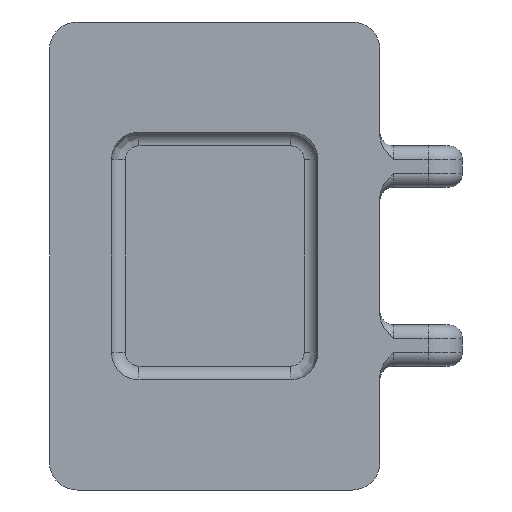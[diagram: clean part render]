
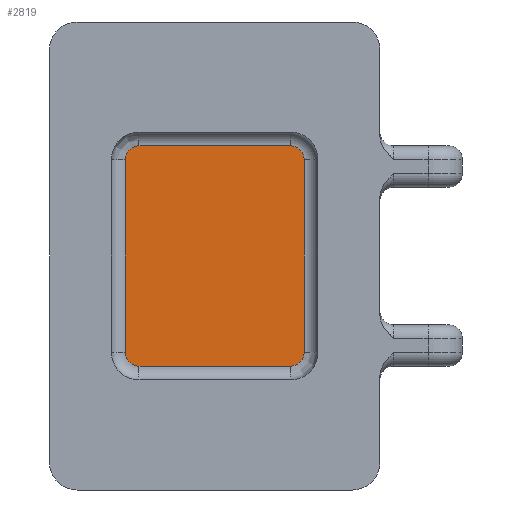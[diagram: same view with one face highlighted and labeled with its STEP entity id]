
A CAD part, front view. The second image highlights one B-rep face of the part: STEP entity #2819.
In plain terms, the highlighted planar face has unit normal (0, -1, 0).
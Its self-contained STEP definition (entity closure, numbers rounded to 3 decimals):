
#1003=CARTESIAN_POINT('',(-5.5,1.,-7.));
#1004=DIRECTION('',(0.,1.,0.));
#1005=DIRECTION('',(0.,0.,-1.));
#1006=AXIS2_PLACEMENT_3D('',#1003,#1004,#1005);
#1008=DIRECTION('',(0.,0.,1.));
#1009=VECTOR('',#1008,14.);
#1010=CARTESIAN_POINT('',(-6.5,1.,-7.));
#1011=LINE('',#1010,#1009);
#1012=CARTESIAN_POINT('',(-5.5,1.,7.));
#1013=DIRECTION('',(0.,1.,0.));
#1014=DIRECTION('',(-1.,0.,0.));
#1015=AXIS2_PLACEMENT_3D('',#1012,#1013,#1014);
#1017=DIRECTION('',(1.,0.,0.));
#1018=VECTOR('',#1017,11.);
#1019=CARTESIAN_POINT('',(-5.5,1.,8.));
#1020=LINE('',#1019,#1018);
#1021=CARTESIAN_POINT('',(5.5,1.,7.));
#1022=DIRECTION('',(0.,1.,0.));
#1023=DIRECTION('',(0.,0.,1.));
#1024=AXIS2_PLACEMENT_3D('',#1021,#1022,#1023);
#1026=DIRECTION('',(0.,0.,-1.));
#1027=VECTOR('',#1026,14.);
#1028=CARTESIAN_POINT('',(6.5,1.,7.));
#1029=LINE('',#1028,#1027);
#1030=CARTESIAN_POINT('',(5.5,1.,-7.));
#1031=DIRECTION('',(0.,1.,0.));
#1032=DIRECTION('',(1.,0.,0.));
#1033=AXIS2_PLACEMENT_3D('',#1030,#1031,#1032);
#1035=DIRECTION('',(-1.,0.,0.));
#1036=VECTOR('',#1035,11.);
#1037=CARTESIAN_POINT('',(5.5,1.,-8.));
#1038=LINE('',#1037,#1036);
#1276=CARTESIAN_POINT('',(-5.5,1.,-8.));
#1277=CARTESIAN_POINT('',(-6.5,1.,-7.));
#1278=VERTEX_POINT('',#1276);
#1279=VERTEX_POINT('',#1277);
#1284=CARTESIAN_POINT('',(-6.5,1.,7.));
#1285=VERTEX_POINT('',#1284);
#1288=CARTESIAN_POINT('',(-5.5,1.,8.));
#1289=VERTEX_POINT('',#1288);
#1292=CARTESIAN_POINT('',(5.5,1.,8.));
#1293=VERTEX_POINT('',#1292);
#1296=CARTESIAN_POINT('',(6.5,1.,7.));
#1297=VERTEX_POINT('',#1296);
#1300=CARTESIAN_POINT('',(6.5,1.,-7.));
#1301=VERTEX_POINT('',#1300);
#1304=CARTESIAN_POINT('',(5.5,1.,-8.));
#1305=VERTEX_POINT('',#1304);
#2797=CARTESIAN_POINT('',(0.,1.,0.));
#2798=DIRECTION('',(0.,-1.,0.));
#2799=DIRECTION('',(1.,0.,0.));
#2800=AXIS2_PLACEMENT_3D('',#2797,#2798,#2799);
#2801=PLANE('',#2800);
#2802=ORIENTED_EDGE('',*,*,#2787,.T.);
#2804=ORIENTED_EDGE('',*,*,#2803,.T.);
#2806=ORIENTED_EDGE('',*,*,#2805,.T.);
#2808=ORIENTED_EDGE('',*,*,#2807,.T.);
#2810=ORIENTED_EDGE('',*,*,#2809,.T.);
#2812=ORIENTED_EDGE('',*,*,#2811,.T.);
#2814=ORIENTED_EDGE('',*,*,#2813,.T.);
#2816=ORIENTED_EDGE('',*,*,#2815,.T.);
#2817=EDGE_LOOP('',(#2802,#2804,#2806,#2808,#2810,#2812,#2814,#2816));
#2818=FACE_OUTER_BOUND('',#2817,.F.);
#2819=ADVANCED_FACE('',(#2818),#2801,.T.);
#1007=CIRCLE('',#1006,1.);
#1016=CIRCLE('',#1015,1.);
#1025=CIRCLE('',#1024,1.);
#1034=CIRCLE('',#1033,1.);
#2787=EDGE_CURVE('',#1278,#1279,#1007,.T.);
#2803=EDGE_CURVE('',#1279,#1285,#1011,.T.);
#2805=EDGE_CURVE('',#1285,#1289,#1016,.T.);
#2807=EDGE_CURVE('',#1289,#1293,#1020,.T.);
#2809=EDGE_CURVE('',#1293,#1297,#1025,.T.);
#2811=EDGE_CURVE('',#1297,#1301,#1029,.T.);
#2813=EDGE_CURVE('',#1301,#1305,#1034,.T.);
#2815=EDGE_CURVE('',#1305,#1278,#1038,.T.);
